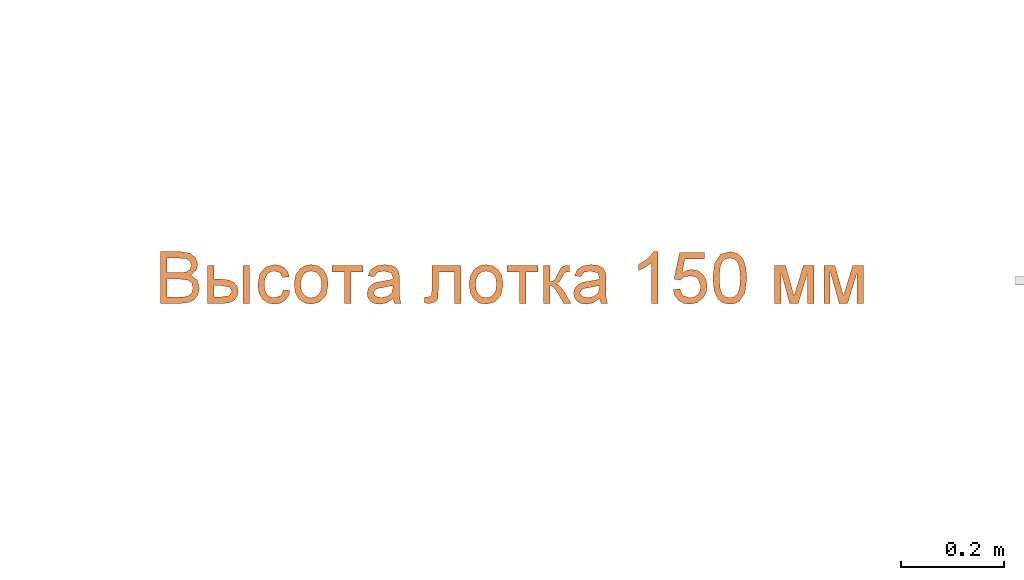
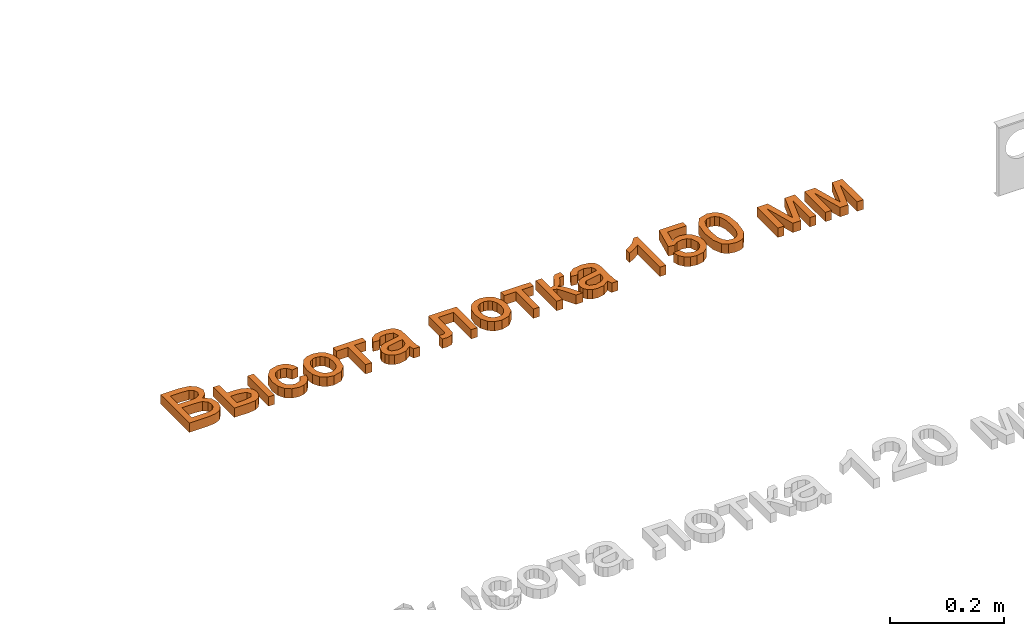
# One storey, part 13 of 71: 1 proxy.
"""IFC2X3 building model written with IfcOpenShell, lengths in millimetres."""

from ifc_helpers import new_model, entity, si_unit, converted_unit, derived_unit, direction, frame, frame_2d, origin, place, context, subcontext, project, spatial, polyline, rectangle, outline, extrude, element, save


model = new_model("IFC2X3")

# Units and contexts
model_context = context("Model", 3, precision=0.01, world=origin(), true_north=direction((6.12303176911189e-17, 1.0)))
body_context = subcontext(model_context, "Body", "Model", "MODEL_VIEW")
ifc_project = project(units=[si_unit("LENGTHUNIT", "METRE", prefix="MILLI"), si_unit("AREAUNIT", "SQUARE_METRE"), si_unit("VOLUMEUNIT", "CUBIC_METRE"), converted_unit("PLANEANGLEUNIT", "DEGREE", entity("IfcRatioMeasure", 0.0174532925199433), si_unit("PLANEANGLEUNIT", "RADIAN"), dimensions=[0, 0, 0, 0, 0, 0, 0]), si_unit("MASSUNIT", "GRAM", prefix="KILO"), derived_unit("MASSDENSITYUNIT", [(si_unit("MASSUNIT", "GRAM", prefix="KILO"), 1), (si_unit("LENGTHUNIT", "METRE"), -3)]), si_unit("TIMEUNIT", "SECOND"), si_unit("FREQUENCYUNIT", "HERTZ"), si_unit("THERMODYNAMICTEMPERATUREUNIT", "DEGREE_CELSIUS"), derived_unit("THERMALTRANSMITTANCEUNIT", [(si_unit("MASSUNIT", "GRAM", prefix="KILO"), 1), (si_unit("THERMODYNAMICTEMPERATUREUNIT", "KELVIN"), -1), (si_unit("TIMEUNIT", "SECOND"), -3)]), derived_unit("VOLUMETRICFLOWRATEUNIT", [(si_unit("LENGTHUNIT", "METRE"), 3), (si_unit("TIMEUNIT", "SECOND"), -1)]), si_unit("ELECTRICCURRENTUNIT", "AMPERE"), si_unit("ELECTRICVOLTAGEUNIT", "VOLT"), si_unit("POWERUNIT", "WATT"), si_unit("FORCEUNIT", "NEWTON", prefix="KILO"), si_unit("ILLUMINANCEUNIT", "LUX"), si_unit("LUMINOUSFLUXUNIT", "LUMEN"), si_unit("LUMINOUSINTENSITYUNIT", "CANDELA"), derived_unit("USERDEFINED", [(si_unit("MASSUNIT", "GRAM", prefix="KILO"), -1), (si_unit("LENGTHUNIT", "METRE"), -2), (si_unit("TIMEUNIT", "SECOND"), 3), (si_unit("LUMINOUSFLUXUNIT", "LUMEN"), 1)]), derived_unit("LINEARVELOCITYUNIT", [(si_unit("LENGTHUNIT", "METRE"), 1), (si_unit("TIMEUNIT", "SECOND"), -1)]), si_unit("PRESSUREUNIT", "PASCAL"), derived_unit("USERDEFINED", [(si_unit("LENGTHUNIT", "METRE"), -2), (si_unit("MASSUNIT", "GRAM", prefix="KILO"), 1), (si_unit("TIMEUNIT", "SECOND"), -2)])], contexts=[model_context])

# Site, building, storey
site_placement = place(None, origin())
site = spatial("IfcSite", under=ifc_project, at=site_placement, Name="Default", CompositionType="ELEMENT")
building_placement = place(site_placement, origin())
building = spatial("IfcBuilding", under=site, at=building_placement, Name="Наименование здания", CompositionType="ELEMENT")
storey_placement = place(building_placement, origin())
storey = spatial("IfcBuildingStorey", under=building, at=storey_placement, Name="Этаж 01", CompositionType="ELEMENT", Elevation=0.0)

# Proxy
proxy_placement = place(storey_placement, origin())
element("IfcBuildingElementProxy", 1, at=proxy_placement, inside=storey, Name="Текст модели:100 мм Arial", ObjectType="Текст модели:100 мм Arial", context=body_context, shape_type="SweptSolid", body=[
    extrude(outline(polyline([(-52.8068326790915, -48.6909338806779), (-14.7678343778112, -48.6909338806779), (1.33313427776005, -46.9618885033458), (12.2592295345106, -41.8605915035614), (19.5800812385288, -32.2466086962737), (22.5353999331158, -18.7453394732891), (18.2066551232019, -3.12261741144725), (5.83355735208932, 6.24611073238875), (16.0238886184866, 15.1365922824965), (19.3961402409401, 26.8720279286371), (15.3862264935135, 39.7233722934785), (4.30071570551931, 48.8100575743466), (-14.4735287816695, 51.7653762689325), (-52.8068326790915, 51.7653762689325), (-52.8068326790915, -48.6909338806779)]), holes=[polyline([(-40.2497939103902, 10.9550002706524), (-40.2497939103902, 39.2083375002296), (-19.0597909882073, 39.2083375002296), (-2.92203413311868, 37.8962250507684), (4.31297843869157, 33.0524454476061), (6.83910147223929, 24.8609396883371), (4.12903744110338, 16.6816966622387), (-3.92757825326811, 12.0341207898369), (-17.3184828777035, 10.9550002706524), (-40.2497939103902, 10.9550002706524)]), polyline([(-40.2497939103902, -36.133895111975), (-40.2497939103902, -1.60203849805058), (-15.7243275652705, -1.60203849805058), (-0.211970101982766, -3.28203294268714), (7.57486546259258, -9.10683119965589), (9.97836116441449, -18.8679668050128), (7.93048472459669, -27.329252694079), (2.70656039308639, -32.9087962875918), (-5.17837703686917, -35.643385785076), (-14.4980542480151, -36.133895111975), (-40.2497939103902, -36.133895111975)])]), frame((4191.86628439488, -22403.7679397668, 0.0)), (0.0, 0.0, 1.0), 20.0),
    extrude(outline(polyline([(-42.3988715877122, -34.5139341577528), (31.3737311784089, -34.5139341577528), (31.3737311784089, -3.73447389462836), (29.653882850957, 9.31613988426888), (24.4943378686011, 18.2526066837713), (16.9129030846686, 23.4121516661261), (7.92738535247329, 25.1319999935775), (-1.9410491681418, 23.081057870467), (-9.42438208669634, 16.9282315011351), (-14.1424686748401, 6.98622058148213), (-15.7151642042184, -6.43227519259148), (-15.7151642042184, -21.956895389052), (-42.3988715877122, -21.956895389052), (-42.3988715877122, -34.5139341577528)]), holes=[polyline([(18.816692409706, -21.956895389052), (-3.15812543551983, -21.956895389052), (-3.15812543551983, -7.41329384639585), (0.226388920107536, 8.88387853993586), (7.95191081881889, 12.5749612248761), (16.1802047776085, 7.59629155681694), (18.816692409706, -9.05650009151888), (18.816692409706, -21.956895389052)])]), frame((4264.61191694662, -22421.0851424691, 0.0), z_axis=(0.0, 0.0, 1.0), x_axis=(0.0, -1.0, 0.0)), (0.0, 0.0, 1.0), 20.0),
    extrude(outline(polyline([(0.267683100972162, -20.7200562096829), (-4.02278247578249, -32.6253015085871), (7.51957889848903, -34.5647704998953), (18.0242916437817, -32.524098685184), (26.8500141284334, -26.8719753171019), (33.3554047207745, -17.9770896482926), (37.2076783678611, -4.95154901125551), (35.3403176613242, 7.71415747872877), (27.6846262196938, 19.1676933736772), (14.1719076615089, 28.5567222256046), (-6.16200624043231, 34.5864889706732), (-23.4110955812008, 30.2307841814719), (-35.1302422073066, 17.0254849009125), (-38.5714296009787, 6.87231136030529), (-38.3156698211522, -2.77330902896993), (-34.4593562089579, -11.5597521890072), (-27.0988821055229, -19.1353940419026), (-20.0099089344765, -8.6525785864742), (-25.7552259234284, 0.801697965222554), (-23.9806627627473, 11.2483121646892), (-18.9208808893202, 17.7794646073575), (-11.853830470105, 21.4126833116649), (-2.81100512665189, 21.5312059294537), (8.17610151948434, 17.5182701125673), (18.0468481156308, 10.9639331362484), (23.3470531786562, 3.65828147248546), (24.6053297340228, -4.07586677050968), (22.3502908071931, -11.9156934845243), (13.5558525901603, -20.7200562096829), (0.267683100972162, -20.7200562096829)])), frame((4359.29348811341, -22416.1480750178, 0.0), z_axis=(0.0, 0.0, -1.0), x_axis=(-0.453109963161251, -0.891454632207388, 0.0)), (0.0, 0.0, -1.0), 20.0),
    extrude(outline(polyline([(-2.34029740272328, -31.6984909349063), (14.2731811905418, -31.6984909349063), (27.1869525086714, -26.5873672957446), (35.9909592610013, -17.1811275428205), (40.2751441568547, -4.29577920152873), (38.1491713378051, 13.1690451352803), (27.2514955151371, 26.6485362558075), (5.67797919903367, 33.7446283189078), (-10.1280544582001, 33.6081083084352), (-22.8059382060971, 28.3900569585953), (-31.6389568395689, 18.9754531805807), (-35.9103951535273, 6.24927588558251), (-35.5406401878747, -5.97109031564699), (-30.8535887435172, -16.7835237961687), (-19.5870121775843, -26.5692340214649), (-2.34029740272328, -31.6984909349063)]), holes=[polyline([(-0.642949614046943, -19.2566729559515), (-11.6948097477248, -16.2599663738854), (-19.0989004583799, -10.834182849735), (-22.9822632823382, -3.67356758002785), (-23.4719397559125, 4.52763423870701), (-20.7783225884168, 12.2046648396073), (-15.078178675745, 18.0357050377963), (-6.5660093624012, 21.2863283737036), (4.56368400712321, 21.2221083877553), (15.8675929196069, 18.190515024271), (23.3961896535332, 12.7474982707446), (27.3267847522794, 5.59272509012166), (27.8366887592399, -2.57413755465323), (25.1317228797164, -10.3331599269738), (19.4311586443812, -16.1672368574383), (10.8134498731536, -19.3753979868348), (-0.642949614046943, -19.2566729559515)])]), frame((4429.76838821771, -22413.5447249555, 0.0), z_axis=(0.0, 0.0, 1.0), x_axis=(0.137105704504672, -0.990556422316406, 0.0)), (0.0, 0.0, 1.0), 20.0),
    extrude(outline(polyline([(-24.721670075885, -29.8229670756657), (-12.164631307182, -29.8229670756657), (-12.164631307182, -6.27851938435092), (49.0509326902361, -6.27851938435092), (49.0509326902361, 6.27851938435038), (-12.164631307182, 6.27851938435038), (-12.164631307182, 29.8229670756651), (-24.721670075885, 29.8229670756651), (-24.721670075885, -29.8229670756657)])), frame((4501.64394616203, -22403.4079409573, 0.0), z_axis=(0.0, 0.0, 1.0), x_axis=(0.0, -1.0, 0.0)), (0.0, 0.0, 1.0), 20.0),
    extrude(outline(polyline([(32.0508237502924, 7.88266535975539), (41.9780345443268, 7.88266535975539), (45.9489188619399, 19.7953183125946), (35.1414436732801, 20.7608946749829), (14.2438893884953, 27.0545912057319), (-0.577126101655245, 31.9949297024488), (-11.1945882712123, 34.8877809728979), (-20.4974705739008, 33.9299602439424), (-28.5323068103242, 27.547073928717), (-35.4619652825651, 13.8157249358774), (-38.304404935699, -2.69989645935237), (-34.9462156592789, -15.349334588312), (-25.0306383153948, -24.3807697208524), (-19.5706723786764, -12.9644773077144), (-25.7868125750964, -4.50695904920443), (-24.0611841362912, 8.30922519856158), (-16.2279943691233, 20.3304570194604), (-6.33956174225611, 20.6794605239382), (-3.71040200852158, 19.7255176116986), (-6.5024300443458, -2.30048133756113), (-8.14662433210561, -13.2049019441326), (-7.01817966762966, -22.8490321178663), (-2.17478658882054, -31.1204151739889), (6.48825595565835, -36.541602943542), (15.001033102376, -37.7020395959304), (22.9495879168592, -35.3200906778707), (29.6378522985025, -29.3899394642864), (34.3697581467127, -19.9057692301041), (36.2737661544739, -6.3605554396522), (32.0508237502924, 7.88266535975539)]), holes=[polyline([(8.22551784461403, 15.8244339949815), (11.5759514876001, 14.6300664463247), (20.1614376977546, 9.67421668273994), (24.4696920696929, -0.396473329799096), (23.3024692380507, -13.3987927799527), (17.2491973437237, -22.9498553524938), (9.62153186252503, -24.3497471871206), (5.58084684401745, -21.193204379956), (3.98706417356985, -15.5044472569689), (5.47226797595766, -4.61166010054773), (8.22551784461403, 15.8244339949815)])]), frame((4571.92970417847, -22415.1277310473, 0.0), z_axis=(0.0, 0.0, 1.0), x_axis=(0.316227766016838, -0.948683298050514, 0.0)), (0.0, 0.0, 1.0), 20.0),
    extrude(outline(polyline([(-49.3689973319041, 12.5447760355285), (-49.3689973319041, -43.9618984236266), (24.3300290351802, -43.9618984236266), (24.3300290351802, -31.4048596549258), (-36.8119585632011, -31.4048596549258), (-36.8119585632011, -0.0122627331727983), (-1.61791435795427, -0.0122627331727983), (14.6179443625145, 0.833865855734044), (21.4728122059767, 5.48144172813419), (24.403605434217, 16.4688506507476), (23.7659433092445, 26.6714446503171), (11.8465666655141, 26.6714446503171), (11.8465666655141, 21.0551128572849), (11.0740144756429, 15.3774673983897), (8.62146784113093, 13.1088617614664), (-2.32915288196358, 12.5447760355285), (-49.3689973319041, 12.5447760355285)])), frame((4677.43022619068, -22428.0552682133, 0.0), z_axis=(0.0, 0.0, -1.0), x_axis=(0.0, -1.0, 0.0)), (0.0, 0.0, -1.0), 20.0),
    extrude(outline(polyline([(-2.3402974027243, -31.6984909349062), (14.2731811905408, -31.6984909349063), (27.1869525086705, -26.5873672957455), (35.9909592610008, -17.1811275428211), (40.2751441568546, -4.29577920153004), (38.1491713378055, 13.1690451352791), (27.2514955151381, 26.6485362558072), (5.67797919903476, 33.7446283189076), (-10.128054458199, 33.6081083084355), (-22.8059382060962, 28.3900569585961), (-31.6389568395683, 18.9754531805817), (-35.9103951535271, 6.24927588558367), (-35.5406401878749, -5.97109031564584), (-30.8535887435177, -16.7835237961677), (-19.5870121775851, -26.5692340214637), (-2.3402974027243, -31.6984909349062)]), holes=[polyline([(-0.642949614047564, -19.2566729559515), (-11.6948097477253, -16.259966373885), (-19.0989004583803, -10.8341828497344), (-22.9822632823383, -3.6735675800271), (-23.4719397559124, 4.52763423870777), (-20.7783225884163, 12.2046648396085), (-15.0781786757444, 18.0357050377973), (-6.56600936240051, 21.2863283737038), (4.56368400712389, 21.2221083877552), (15.8675929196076, 18.190515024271), (23.3961896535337, 12.7474982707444), (27.3267847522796, 5.59272509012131), (27.8366887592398, -2.57413755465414), (25.1317228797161, -10.3331599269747), (19.4311586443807, -16.1672368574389), (10.813449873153, -19.3753979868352), (-0.642949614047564, -19.2566729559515)])]), frame((4768.80843497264, -22413.5447249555, 0.0), z_axis=(0.0, 0.0, 1.0), x_axis=(0.137105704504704, -0.990556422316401, 0.0)), (0.0, 0.0, 1.0), 20.0),
    extrude(outline(polyline([(-24.721670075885, -29.8229670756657), (-12.164631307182, -29.8229670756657), (-12.164631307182, -6.27851938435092), (49.0509326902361, -6.27851938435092), (49.0509326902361, 6.27851938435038), (-12.164631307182, 6.27851938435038), (-12.164631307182, 29.8229670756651), (-24.721670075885, 29.8229670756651), (-24.721670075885, -29.8229670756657)])), frame((4840.68399291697, -22403.4079409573, 0.0), z_axis=(0.0, 0.0, 1.0), x_axis=(0.0, -1.0, 0.0)), (0.0, 0.0, 1.0), 20.0),
    extrude(outline(polyline([(-30.3295712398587, -29.5353037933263), (43.4430315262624, -29.5353037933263), (43.4430315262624, -16.9782650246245), (8.91117491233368, -16.9782650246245), (11.2288314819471, -10.2337617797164), (20.8060260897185, -3.61188586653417), (43.4430315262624, 9.55828956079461), (43.4430315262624, 23.8321109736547), (20.3155167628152, 10.3921554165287), (10.0209522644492, 2.61758258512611), (5.13425309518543, -5.30414304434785), (0.75645735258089, 1.79597946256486), (-8.18307513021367, 6.86048826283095), (-16.4481572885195, 11.1769703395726), (-17.7725324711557, 17.3083369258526), (-17.6989560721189, 20.6928512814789), (-30.3295712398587, 20.6928512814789), (-30.3295712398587, 18.289355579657), (-29.3730780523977, 9.10456843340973), (-25.6819953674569, 4.05232236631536), (-14.3389671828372, -1.67437402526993), (-1.1933172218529, -8.56603006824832), (1.06302568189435, -16.9782650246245), (-30.3295712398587, -16.9782650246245), (-30.3295712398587, -29.5353037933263)])), frame((4911.02967270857, -22409.0158421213, 0.0), z_axis=(0.0, 0.0, 1.0), x_axis=(0.0, -1.0, 0.0)), (0.0, 0.0, 1.0), 20.0),
    extrude(rectangle(XDim=73.7726027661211, YDim=12.5570387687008, at=frame_2d((2.16715534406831e-12, 0.0), x_axis=(1.0, 0.0))), frame((4305.44021540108, -22415.5725722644, 0.0), z_axis=(0.0, 0.0, 1.0), x_axis=(0.0, -1.0, 0.0)), (0.0, 0.0, 1.0), 20.0),
    extrude(outline(polyline([(32.0508237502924, 7.88266535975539), (41.9780345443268, 7.88266535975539), (45.9489188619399, 19.7953183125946), (35.1414436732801, 20.7608946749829), (14.2438893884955, 27.0545912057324), (-0.577126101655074, 31.9949297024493), (-11.1945882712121, 34.8877809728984), (-20.4974705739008, 33.9299602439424), (-28.5323068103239, 27.547073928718), (-35.4619652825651, 13.8157249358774), (-38.3044049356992, -2.69989645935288), (-34.9462156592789, -15.349334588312), (-25.0306383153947, -24.3807697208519), (-19.5706723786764, -12.9644773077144), (-25.7868125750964, -4.50695904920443), (-24.0611841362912, 8.30922519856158), (-16.2279943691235, 20.3304570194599), (-6.33956174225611, 20.6794605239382), (-3.71040200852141, 19.7255176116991), (-6.5024300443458, -2.30048133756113), (-8.14662433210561, -13.2049019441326), (-7.01817966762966, -22.8490321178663), (-2.17478658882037, -31.1204151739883), (6.48825595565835, -36.541602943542), (15.0010331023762, -37.7020395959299), (22.9495879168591, -35.3200906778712), (29.6378522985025, -29.3899394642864), (34.3697581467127, -19.9057692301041), (36.2737661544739, -6.3605554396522), (32.0508237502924, 7.88266535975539)]), holes=[polyline([(8.22551784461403, 15.8244339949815), (11.5759514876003, 14.6300664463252), (20.1614376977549, 9.67421668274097), (24.4696920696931, -0.396473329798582), (23.3024692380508, -13.3987927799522), (17.2491973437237, -22.9498553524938), (9.62153186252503, -24.3497471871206), (5.58084684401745, -21.193204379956), (3.98706417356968, -15.5044472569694), (5.47226797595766, -4.61166010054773), (8.22551784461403, 15.8244339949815)])]), frame((4972.18531493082, -22415.1277310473, 0.0), z_axis=(0.0, 0.0, 1.0), x_axis=(0.316227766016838, -0.948683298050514, 0.0)), (0.0, 0.0, 1.0), 20.0),
    extrude(outline(polyline([(-63.8793021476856, -16.918484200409), (36.5770080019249, -16.918484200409), (36.5770080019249, -8.82508030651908), (23.2106288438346, 2.34626961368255), (11.4629304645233, 20.7526321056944), (-0.407395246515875, 20.7526321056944), (5.93243780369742, 7.53340574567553), (14.4059864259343, -4.36144543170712), (-63.8793021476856, -4.36144543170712), (-63.8793021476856, -16.918484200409)])), frame((5085.89369301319, -22388.5795714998, 0.0), z_axis=(0.0, 0.0, 1.0), x_axis=(0.0, 1.0, 0.0)), (0.0, 0.0, 1.0), 20.0),
    extrude(outline(polyline([(3.81439562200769, -37.25489596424), (15.7323946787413, -37.25489596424), (26.1588137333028, -33.0579698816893), (34.292169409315, -25.0537205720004), (39.330978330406, -13.6317508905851), (40.2219288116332, 1.43409098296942), (34.3991305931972, 14.6815107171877), (25.5350217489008, 23.1481891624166), (13.9054384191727, 28.2770976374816), (0.912111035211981, 29.4702838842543), (-10.7159258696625, 25.7768606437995), (-19.742707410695, 18.0989984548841), (-24.9322687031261, 7.3388678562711), (-25.5937300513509, -2.21124798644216), (-22.6370240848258, -12.2793380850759), (-47.9924930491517, 0.0204883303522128), (-38.0977082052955, 37.2324069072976), (-50.2330599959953, 40.4592412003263), (-62.73704288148, -6.56524698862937), (-15.5021967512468, -30.494371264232), (-10.7584434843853, -18.7623737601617), (-14.4216298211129, -10.4922324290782), (-13.6981616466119, 0.722667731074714), (-9.98738154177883, 9.35727561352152), (-4.32553373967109, 14.6878856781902), (11.4370636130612, 15.9400687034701), (19.7481682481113, 12.2772427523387), (25.4355726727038, 6.40632241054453), (28.0665145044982, -1.27212018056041), (27.2082313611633, -10.3575128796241), (19.6530635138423, -21.9256319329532), (5.52431094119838, -24.7161898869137), (3.81439562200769, -37.25489596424)])), frame((5167.65875566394, -22412.5153196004, 0.0), z_axis=(0.0, 0.0, 1.0), x_axis=(0.256974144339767, -0.966418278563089, 0.0)), (0.0, 0.0, 1.0), 20.0),
    extrude(outline(polyline([(-7.0288431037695, -33.3490673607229), (17.5323805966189, -33.3490673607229), (35.1984171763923, -27.6137612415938), (43.3439841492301, -18.4876517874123), (47.0516941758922, -5.75150665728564), (46.7162020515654, 4.48638208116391), (43.4465778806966, 13.0955287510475), (27.9444305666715, 25.6659118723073), (-0.31433837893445, 32.2325535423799), (-24.0296505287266, 32.3678288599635), (-39.4143020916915, 28.0260881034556), (-49.7293680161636, 18.9002174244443), (-54.4436715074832, 4.63998875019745), (-50.8676582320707, -14.1301059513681), (-35.4058547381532, -26.7333390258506), (-7.0288431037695, -33.3490673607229)]), holes=[polyline([(-5.77428774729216, -20.8548320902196), (-25.0157644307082, -17.356286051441), (-36.7257089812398, -11.5717922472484), (-41.0962588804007, -4.77599682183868), (-41.9669219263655, 3.21464792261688), (-39.2244253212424, 11.2791292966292), (-32.8654063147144, 17.2229259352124), (-20.9698370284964, 20.294750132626), (-1.61768958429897, 19.7433141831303), (17.8514140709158, 16.2707701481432), (28.7803640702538, 10.714159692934), (33.5546988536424, 3.61815959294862), (34.5599568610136, -4.47255337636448), (31.9421230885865, -12.1923199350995), (25.8471825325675, -18.1754808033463), (14.025067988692, -21.402747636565), (-5.77428774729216, -20.8548320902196)])]), frame((5243.438544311, -22406.6356967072, 0.0), z_axis=(0.0, 0.0, 1.0), x_axis=(0.101851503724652, -0.994799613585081, 0.0)), (0.0, 0.0, 1.0), 20.0),
    extrude(outline(polyline([(-40.583987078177, -38.4502715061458), (33.1886156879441, -38.4502715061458), (33.1886156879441, -25.893232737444), (-29.0570178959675, -25.893232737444), (33.1886156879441, -8.62730443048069), (33.1886156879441, 7.85380895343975), (-26.2120637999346, 25.904552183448), (33.1886156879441, 25.904552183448), (33.1886156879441, 38.4615909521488), (-40.583987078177, 38.4615909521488), (-40.583987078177, 17.7620973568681), (18.4733358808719, -0.190544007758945), (-40.583987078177, -16.8433356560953), (-40.583987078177, -38.4502715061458)])), frame((5367.28914655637, -22419.2702579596, 0.0), z_axis=(0.0, 0.0, 1.0), x_axis=(0.0, -1.0, 0.0)), (0.0, 0.0, 1.0), 20.0),
    extrude(outline(polyline([(-40.583987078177, -38.4502715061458), (33.1886156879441, -38.4502715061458), (33.1886156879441, -25.8932327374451), (-29.0570178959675, -25.8932327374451), (33.1886156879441, -8.62730443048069), (33.1886156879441, 7.85380895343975), (-26.2120637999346, 25.904552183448), (33.1886156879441, 25.904552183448), (33.1886156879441, 38.4615909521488), (-40.583987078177, 38.4615909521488), (-40.583987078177, 17.7620973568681), (18.4733358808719, -0.190544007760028), (-40.583987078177, -16.8433356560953), (-40.583987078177, -38.4502715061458)])), frame((5463.03656716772, -22419.2702579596, 0.0), z_axis=(0.0, 0.0, 1.0), x_axis=(0.0, -1.0, 0.0)), (0.0, 0.0, 1.0), 20.0),
])

save(model, "model.ifc")
